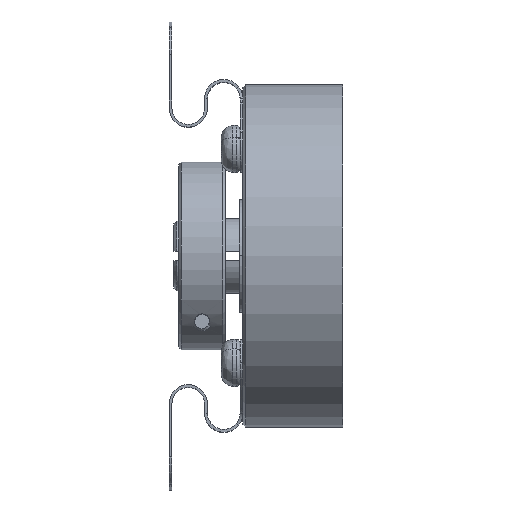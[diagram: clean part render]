
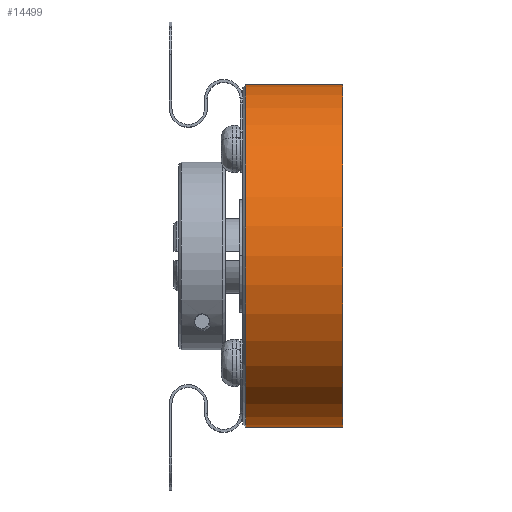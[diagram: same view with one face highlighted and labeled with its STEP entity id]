
A CAD part, top view. The second image highlights one B-rep face of the part: STEP entity #14499.
In plain terms, the highlighted cylindrical face has radius 18.25 mm (diameter 36.5 mm), a partial arc.
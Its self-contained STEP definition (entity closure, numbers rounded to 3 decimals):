
#300 = CYLINDRICAL_SURFACE ( 'NONE', #14845, 18.25 ) ;
#1231 = AXIS2_PLACEMENT_3D ( 'NONE', #22138, #21745, #1353 ) ;
#1353 = DIRECTION ( 'NONE',  ( 0., 1., 0. ) ) ;
#3715 = EDGE_CURVE ( 'NONE', #9910, #15074, #24916, .T. ) ;
#3748 = ORIENTED_EDGE ( 'NONE', *, *, #5447, .T. ) ;
#4489 = DIRECTION ( 'NONE',  ( 1., 0., 0. ) ) ;
#5447 = EDGE_CURVE ( 'NONE', #16621, #18764, #22113, .T. ) ;
#6225 = DIRECTION ( 'NONE',  ( -1., 0., 0. ) ) ;
#8415 = EDGE_CURVE ( 'NONE', #9910, #16621, #14631, .T. ) ;
#9558 = CIRCLE ( 'NONE', #19216, 18.25 ) ;
#9910 = VERTEX_POINT ( 'NONE', #23023 ) ;
#10050 = CARTESIAN_POINT ( 'NONE',  ( -1.3, 18.25, 0. ) ) ;
#11354 = CARTESIAN_POINT ( 'NONE',  ( -11.65, -18.25, 0. ) ) ;
#12214 = VECTOR ( 'NONE', #6225, 1000. ) ;
#13518 = CARTESIAN_POINT ( 'NONE',  ( -11.65, 18.25, 0. ) ) ;
#13633 = DIRECTION ( 'NONE',  ( -1., 0., 0. ) ) ;
#13958 = FACE_OUTER_BOUND ( 'NONE', #28608, .T. ) ;
#14345 = CARTESIAN_POINT ( 'NONE',  ( -1000., -18.25, 0. ) ) ;
#14499 = ADVANCED_FACE ( 'NONE', ( #13958 ), #300, .T. ) ;
#14631 = CIRCLE ( 'NONE', #1231, 18.25 ) ;
#14637 = DIRECTION ( 'NONE',  ( -1., 0., 0. ) ) ;
#14845 = AXIS2_PLACEMENT_3D ( 'NONE', #15912, #13633, #27024 ) ;
#15074 = VERTEX_POINT ( 'NONE', #11354 ) ;
#15912 = CARTESIAN_POINT ( 'NONE',  ( -1000., 0., 0. ) ) ;
#16621 = VERTEX_POINT ( 'NONE', #10050 ) ;
#18470 = CARTESIAN_POINT ( 'NONE',  ( -11.65, 0., 0. ) ) ;
#18764 = VERTEX_POINT ( 'NONE', #13518 ) ;
#18922 = VECTOR ( 'NONE', #14637, 1000. ) ;
#19216 = AXIS2_PLACEMENT_3D ( 'NONE', #18470, #4489, #22799 ) ;
#20687 = EDGE_CURVE ( 'NONE', #18764, #15074, #9558, .T. ) ;
#21745 = DIRECTION ( 'NONE',  ( -1., 0., 0. ) ) ;
#22113 = LINE ( 'NONE', #24217, #12214 ) ;
#22138 = CARTESIAN_POINT ( 'NONE',  ( -1.3, 0., 0. ) ) ;
#22799 = DIRECTION ( 'NONE',  ( 0., 1., 0. ) ) ;
#23023 = CARTESIAN_POINT ( 'NONE',  ( -1.3, -18.25, 0. ) ) ;
#24155 = ORIENTED_EDGE ( 'NONE', *, *, #20687, .T. ) ;
#24217 = CARTESIAN_POINT ( 'NONE',  ( -1000., 18.25, 0. ) ) ;
#24916 = LINE ( 'NONE', #14345, #18922 ) ;
#25801 = ORIENTED_EDGE ( 'NONE', *, *, #3715, .F. ) ;
#27024 = DIRECTION ( 'NONE',  ( 0., 1., 0. ) ) ;
#28608 = EDGE_LOOP ( 'NONE', ( #25801, #29053, #3748, #24155 ) ) ;
#29053 = ORIENTED_EDGE ( 'NONE', *, *, #8415, .T. ) ;
